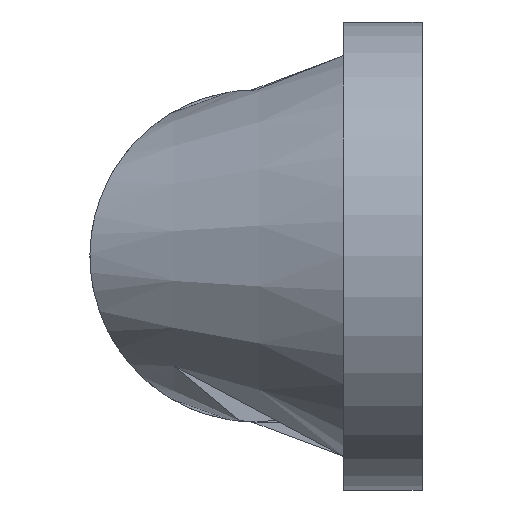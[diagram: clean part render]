
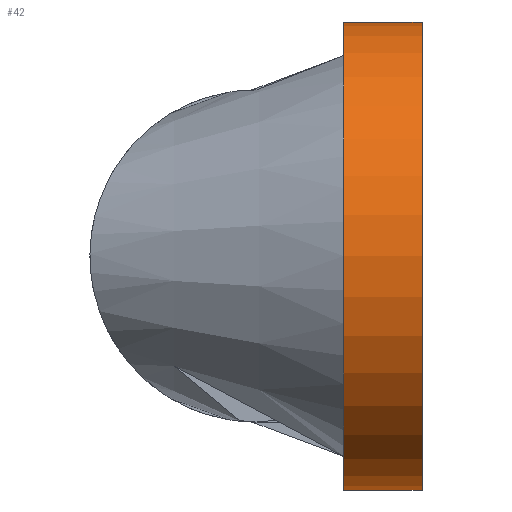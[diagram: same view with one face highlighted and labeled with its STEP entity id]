
A CAD part, left-side view. The second image highlights one B-rep face of the part: STEP entity #42.
In plain terms, the highlighted cylindrical face has radius 15.5 mm (diameter 31 mm), a partial arc.
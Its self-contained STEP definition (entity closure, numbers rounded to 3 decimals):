
#29 = CARTESIAN_POINT ( 'NONE',  ( -38.5, 5.2, -15.5 ) ) ;
#32 = VERTEX_POINT ( 'NONE', #250 ) ;
#42 = ADVANCED_FACE ( 'NONE', ( #552 ), #206, .T. ) ;
#59 = AXIS2_PLACEMENT_3D ( 'NONE', #600, #232, #657 ) ;
#73 = ORIENTED_EDGE ( 'NONE', *, *, #763, .T. ) ;
#76 = ORIENTED_EDGE ( 'NONE', *, *, #823, .F. ) ;
#102 = VERTEX_POINT ( 'NONE', #137 ) ;
#114 = CARTESIAN_POINT ( 'NONE',  ( -38.5, 0., 0. ) ) ;
#124 = DIRECTION ( 'NONE',  ( 0., 0., -1. ) ) ;
#137 = CARTESIAN_POINT ( 'NONE',  ( -38.5, 5.2, 15.5 ) ) ;
#149 = DIRECTION ( 'NONE',  ( 0., -1., 0. ) ) ;
#179 = DIRECTION ( 'NONE',  ( 0., 0., 1. ) ) ;
#202 = EDGE_CURVE ( 'NONE', #269, #681, #448, .T. ) ;
#206 = CYLINDRICAL_SURFACE ( 'NONE', #588, 15.5 ) ;
#229 = CARTESIAN_POINT ( 'NONE',  ( -38.5, 0., -15.5 ) ) ;
#232 = DIRECTION ( 'NONE',  ( 0., -1., 0. ) ) ;
#243 = ORIENTED_EDGE ( 'NONE', *, *, #533, .F. ) ;
#250 = CARTESIAN_POINT ( 'NONE',  ( -38.5, 0., 15.5 ) ) ;
#269 = VERTEX_POINT ( 'NONE', #29 ) ;
#293 = VECTOR ( 'NONE', #608, 1000. ) ;
#356 = AXIS2_PLACEMENT_3D ( 'NONE', #114, #541, #179 ) ;
#364 = CARTESIAN_POINT ( 'NONE',  ( -38.5, 5.2, 0. ) ) ;
#380 = VECTOR ( 'NONE', #149, 1000. ) ;
#426 = EDGE_LOOP ( 'NONE', ( #76, #243, #73, #463 ) ) ;
#448 = LINE ( 'NONE', #746, #293 ) ;
#451 = CARTESIAN_POINT ( 'NONE',  ( -38.5, 5.2, 15.5 ) ) ;
#463 = ORIENTED_EDGE ( 'NONE', *, *, #202, .T. ) ;
#526 = CIRCLE ( 'NONE', #59, 15.5 ) ;
#533 = EDGE_CURVE ( 'NONE', #102, #32, #543, .T. ) ;
#541 = DIRECTION ( 'NONE',  ( 0., -1., 0. ) ) ;
#543 = LINE ( 'NONE', #451, #380 ) ;
#552 = FACE_OUTER_BOUND ( 'NONE', #426, .T. ) ;
#556 = DIRECTION ( 'NONE',  ( 0., -1., 0. ) ) ;
#588 = AXIS2_PLACEMENT_3D ( 'NONE', #364, #556, #124 ) ;
#600 = CARTESIAN_POINT ( 'NONE',  ( -38.5, 5.2, 0. ) ) ;
#608 = DIRECTION ( 'NONE',  ( 0., -1., 0. ) ) ;
#657 = DIRECTION ( 'NONE',  ( 0., 0., 1. ) ) ;
#681 = VERTEX_POINT ( 'NONE', #229 ) ;
#746 = CARTESIAN_POINT ( 'NONE',  ( -38.5, 5.2, -15.5 ) ) ;
#763 = EDGE_CURVE ( 'NONE', #102, #269, #526, .T. ) ;
#818 = CIRCLE ( 'NONE', #356, 15.5 ) ;
#823 = EDGE_CURVE ( 'NONE', #32, #681, #818, .T. ) ;
